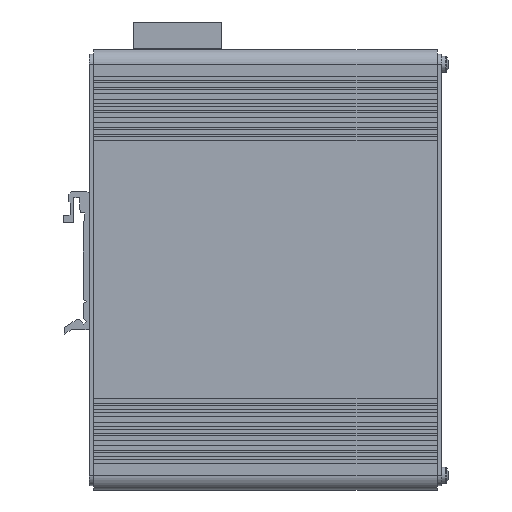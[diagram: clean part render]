
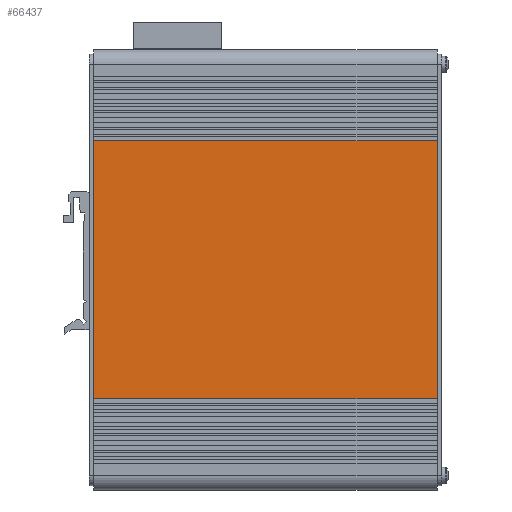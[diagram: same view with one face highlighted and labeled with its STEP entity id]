
A CAD part, left-side view. The second image highlights one B-rep face of the part: STEP entity #66437.
In plain terms, the highlighted planar face has unit normal (-1, 0, 0).
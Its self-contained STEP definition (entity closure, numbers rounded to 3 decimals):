
#3047=PLANE('',#70801);
#10758=LINE('',#105546,#18708);
#10876=LINE('',#105792,#18826);
#10983=LINE('',#106010,#18933);
#10984=LINE('',#106011,#18934);
#18708=VECTOR('',#86843,10.);
#18826=VECTOR('',#87031,10.);
#18933=VECTOR('',#87208,10.);
#18934=VECTOR('',#87209,10.);
#22620=FACE_OUTER_BOUND('',#25979,.T.);
#25979=EDGE_LOOP('',(#59998,#59999,#60000,#60001));
#32873=VERTEX_POINT('',#105542);
#32875=VERTEX_POINT('',#105545);
#32967=VERTEX_POINT('',#105788);
#32968=VERTEX_POINT('',#105790);
#41904=EDGE_CURVE('',#32875,#32873,#10758,.T.);
#42022=EDGE_CURVE('',#32967,#32968,#10876,.T.);
#42129=EDGE_CURVE('',#32873,#32967,#10983,.T.);
#42130=EDGE_CURVE('',#32968,#32875,#10984,.T.);
#59998=ORIENTED_EDGE('',*,*,#41904,.T.);
#59999=ORIENTED_EDGE('',*,*,#42129,.T.);
#60000=ORIENTED_EDGE('',*,*,#42022,.T.);
#60001=ORIENTED_EDGE('',*,*,#42130,.T.);
#66437=ADVANCED_FACE('',(#22620),#3047,.T.);
#70801=AXIS2_PLACEMENT_3D('',#106009,#87206,#87207);
#86843=DIRECTION('',(0.,1.,0.));
#87031=DIRECTION('',(0.,-1.,0.));
#87206=DIRECTION('center_axis',(-1.,0.,0.));
#87207=DIRECTION('ref_axis',(0.,0.,1.));
#87208=DIRECTION('',(0.,0.,-1.));
#87209=DIRECTION('',(0.,0.,1.));
#105542=CARTESIAN_POINT('',(0.,118.5,119.));
#105545=CARTESIAN_POINT('',(0.,1.5,119.));
#105546=CARTESIAN_POINT('',(0.,0.75,119.));
#105788=CARTESIAN_POINT('',(0.,118.5,31.));
#105790=CARTESIAN_POINT('',(0.,1.5,31.));
#105792=CARTESIAN_POINT('',(0.,0.75,31.));
#106009=CARTESIAN_POINT('Origin',(0.,0.,5.));
#106010=CARTESIAN_POINT('',(0.,118.5,40.));
#106011=CARTESIAN_POINT('',(0.,1.5,40.));
